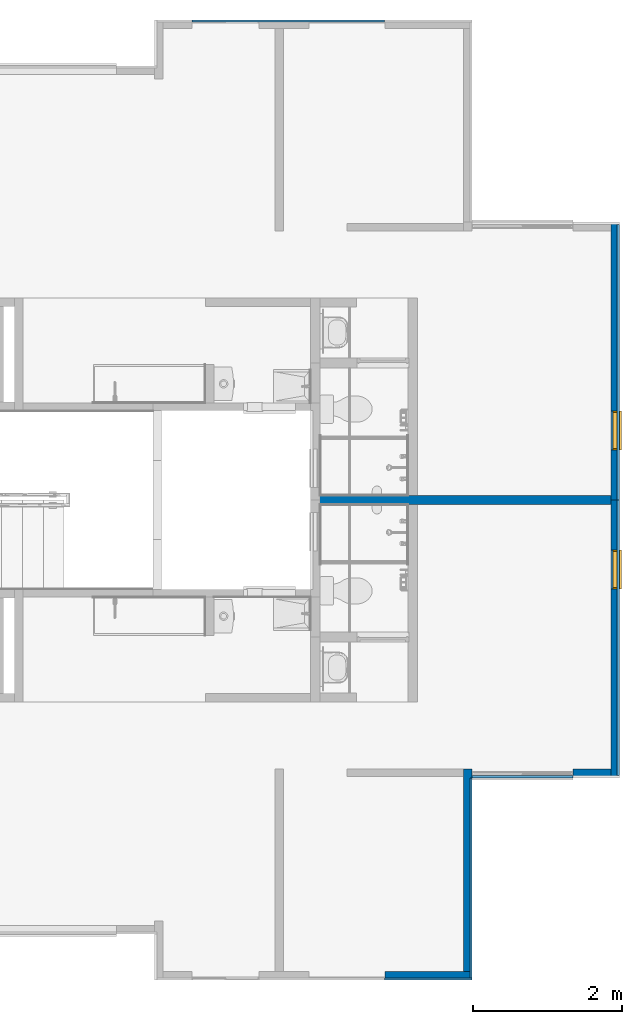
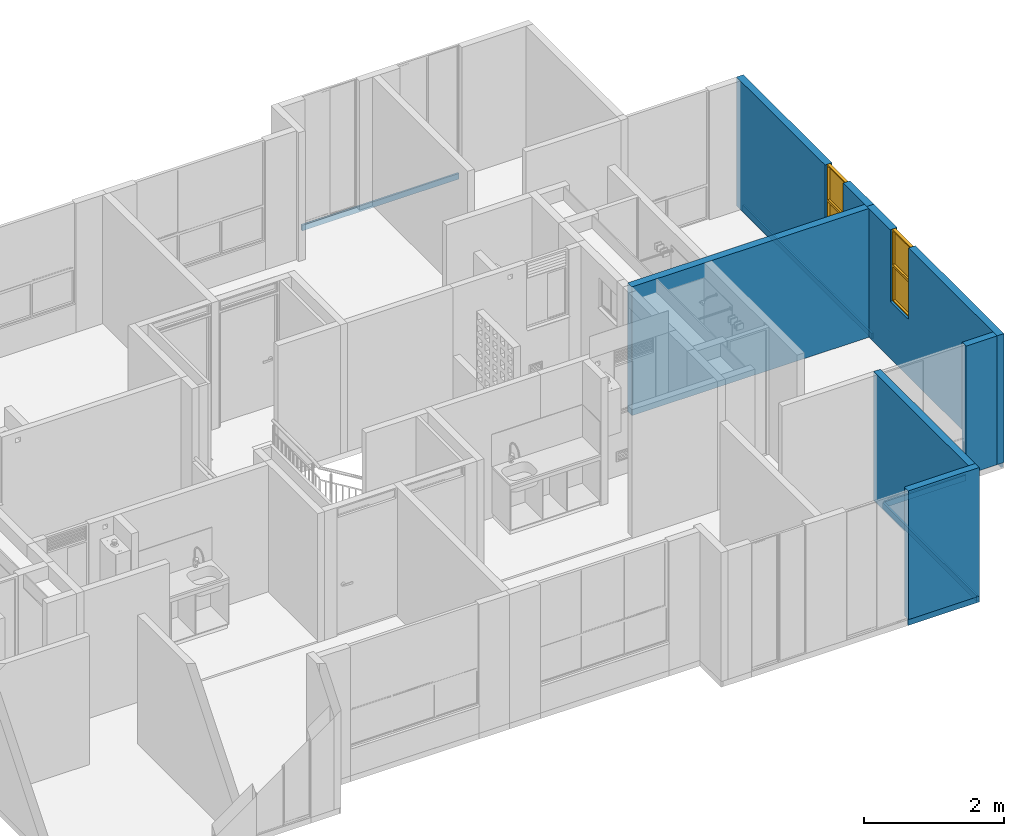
# One storey, part 26 of 47: 12 walls, 2 windows, 2 openings.
"""IFC4 building model written with IfcOpenShell, lengths in metres."""

import ifcopenshell
import ifcopenshell.guid

model = None  # the IFC model being written
_history = None  # IfcOwnerHistory: only IFC2X3 demands one
_inside = {}  # id of a spatial element -> (the spatial element, [elements in it])
_under = {}  # id of a project, library or spatial element -> (it, [spatial elements below it])
_declared = {}  # id of a project -> (the project, [libraries it declares])
_typed = {}  # id of a type object -> (the type object, [elements of that type])
_made_of = {}  # id of a material, layer set ... -> (it, [elements and type objects made of it])


def new_model(schema):
    """Start an empty IFC model of exactly this schema.

    Asked for "IFC4X3", IfcOpenShell would pick the latest addendum, in which some entities
    have other attributes; the version numbers below select the first issue.
    IFC2X3 requires an IfcOwnerHistory on every rooted entity: one is made here for all.
    """
    global model, _history
    if schema == "IFC4X3":
        model = ifcopenshell.file(schema_version=(4, 3, 0, 0))
    else:
        model = ifcopenshell.file(schema=schema)
    _inside.clear()
    _under.clear()
    _declared.clear()
    _typed.clear()
    _made_of.clear()
    _history = None
    if model.schema == "IFC2X3":
        org = make("IfcOrganization", Name="unknown")
        user = make(
            "IfcPersonAndOrganization",
            ThePerson=make("IfcPerson", FamilyName="unknown"),
            TheOrganization=org,
        )
        app = make(
            "IfcApplication",
            ApplicationDeveloper=org,
            Version="unknown",
            ApplicationFullName="unknown",
            ApplicationIdentifier="unknown",
        )
        _history = make(
            "IfcOwnerHistory",
            OwningUser=user,
            OwningApplication=app,
            ChangeAction="ADDED",
            CreationDate=0,
        )
    return model


def make(cls, **values):
    """One entity of the class cls with the attributes given. An attribute that is None is left unset."""
    return model.create_entity(
        cls, **{name: value for name, value in values.items() if value is not None}
    )


def entity(cls, *values):
    """Any entity or typed value of the class cls, its attributes in the order of the schema. None: left unset."""
    e = model.create_entity(cls)
    for i, value in enumerate(values):
        if value is not None:
            e[i] = value
    return e


def rooted(cls, **values):
    """An entity with a GlobalId (a new one), such as an element, a storey or a relation."""
    return make(cls, GlobalId=ifcopenshell.guid.new(), OwnerHistory=_history, **values)


def si_unit(unit_type, name, prefix=None):
    """IfcSIUnit, for example si_unit("LENGTHUNIT", "METRE", prefix="MILLI")."""
    return make("IfcSIUnit", UnitType=unit_type, Prefix=prefix, Name=name)


def converted_unit(unit_type, name, factor, base, dimensions=None, offset=None):
    """IfcConversionBasedUnit, such as the inch: factor (a typed value) times the base unit."""
    return make(
        "IfcConversionBasedUnit"
        if offset is None
        else "IfcConversionBasedUnitWithOffset",
        ConversionOffset=offset,
        Dimensions=None
        if dimensions is None
        else entity("IfcDimensionalExponents", *dimensions),
        UnitType=unit_type,
        Name=name,
        ConversionFactor=make(
            "IfcMeasureWithUnit", ValueComponent=factor, UnitComponent=base
        ),
    )


def derived_unit(unit_type, elements):
    """IfcDerivedUnit: a product of units, each with its exponent."""
    return make(
        "IfcDerivedUnit",
        Elements=[
            make("IfcDerivedUnitElement", Unit=unit, Exponent=power)
            for unit, power in elements
        ],
        UnitType=unit_type,
    )


def assignment(units):
    """IfcUnitAssignment: the units of a project."""
    return None if units is None else make("IfcUnitAssignment", Units=units)


def point(xyz):
    """IfcCartesianPoint."""
    return None if xyz is None else make("IfcCartesianPoint", Coordinates=xyz)


def direction(xyz):
    """IfcDirection."""
    return None if xyz is None else make("IfcDirection", DirectionRatios=xyz)


def frame(location, z_axis=None, x_axis=None):
    """IfcAxis2Placement3D, a coordinate frame: its origin and axes. An axis left out is left unset."""
    return make(
        "IfcAxis2Placement3D",
        Location=point(location),
        Axis=direction(z_axis),
        RefDirection=direction(x_axis),
    )


def origin():
    """The frame at (0, 0, 0) with its axes left unset."""
    return frame((0.0, 0.0, 0.0))


def place(relative_to, where):
    """IfcLocalPlacement: puts the frame where relative to a parent placement (None: the world)."""
    return make(
        "IfcLocalPlacement", PlacementRelTo=relative_to, RelativePlacement=where
    )


def context(
    kind, dimensions, precision=None, world=None, true_north=None, identifier=None
):
    """IfcGeometricRepresentationContext, for example the 3D "Model" context."""
    return make(
        "IfcGeometricRepresentationContext",
        ContextIdentifier=identifier,
        ContextType=kind,
        CoordinateSpaceDimension=dimensions,
        Precision=precision,
        WorldCoordinateSystem=world,
        TrueNorth=true_north,
    )


def subcontext(parent, identifier, kind, view, scale=None):
    """IfcGeometricRepresentationSubContext, for example "Body" below "Model"."""
    return make(
        "IfcGeometricRepresentationSubContext",
        ContextIdentifier=identifier,
        ContextType=kind,
        ParentContext=parent,
        TargetScale=scale,
        TargetView=view,
    )


def project(units=None, contexts=None):
    """IfcProject with its units and contexts."""
    return rooted(
        "IfcProject",
        Name="project",
        RepresentationContexts=contexts,
        UnitsInContext=assignment(units),
    )


def spatial(cls, under=None, at=None, **own):
    """A site, building, storey or space (cls), placed at a placement, below another one or the project."""
    s = rooted(cls, ObjectPlacement=at, **own)
    if under is not None:
        _under.setdefault(under.id(), (under, []))[1].append(s)
    return s


def point_list(points):
    """IfcCartesianPointList2D or 3D."""
    cls = (
        "IfcCartesianPointList2D" if len(points[0]) == 2 else "IfcCartesianPointList3D"
    )
    return make(cls, CoordList=points)


def indexed_curve(points, segments=None, self_intersect=None):
    """IfcIndexedPolyCurve: lines and arcs through numbered points (the first is 1)."""
    return make(
        "IfcIndexedPolyCurve",
        Points=point_list(points),
        Segments=segments,
        SelfIntersect=self_intersect,
    )


def outline(outer, holes=None, kind="AREA"):
    """IfcArbitraryClosedProfileDef: a profile drawn as a closed curve; with holes, ...WithVoids."""
    if holes is None:
        return make("IfcArbitraryClosedProfileDef", ProfileType=kind, OuterCurve=outer)
    return make(
        "IfcArbitraryProfileDefWithVoids",
        ProfileType=kind,
        OuterCurve=outer,
        InnerCurves=holes,
    )


def extrude(swept, where, along, depth):
    """IfcExtrudedAreaSolid: the profile swept, set in the frame where, extruded along a direction by depth."""
    return make(
        "IfcExtrudedAreaSolid",
        SweptArea=swept,
        Position=where,
        ExtrudedDirection=direction(along),
        Depth=depth,
    )


def polygons(points, faces, closed=None, point_numbers=None):
    """IfcPolygonalFaceSet: a face is its outer loop, then its inner loops; points numbered from 1."""
    made = []
    for loops in faces:
        if len(loops) == 1:
            made.append(make("IfcIndexedPolygonalFace", CoordIndex=loops[0]))
        else:
            made.append(
                make(
                    "IfcIndexedPolygonalFaceWithVoids",
                    CoordIndex=loops[0],
                    InnerCoordIndices=loops[1:],
                )
            )
    return make(
        "IfcPolygonalFaceSet",
        Coordinates=point_list(points),
        Closed=closed,
        Faces=made,
        PnIndex=point_numbers,
    )


def shape(context_of_items, identifier, shape_type, items):
    """IfcShapeRepresentation: the items that make up one representation, for example the "Body"."""
    return make(
        "IfcShapeRepresentation",
        ContextOfItems=context_of_items,
        RepresentationIdentifier=identifier,
        RepresentationType=shape_type,
        Items=items,
    )


def source(mapping_origin, context_of_items, identifier, shape_type, items):
    """IfcRepresentationMap: a shape defined once, which mapped items show again and again."""
    return make(
        "IfcRepresentationMap",
        MappingOrigin=mapping_origin,
        MappedRepresentation=shape(context_of_items, identifier, shape_type, items),
    )


def transform(
    local_origin,
    x_axis=None,
    y_axis=None,
    z_axis=None,
    scale=None,
    scale2=None,
    scale3=None,
    uniform=True,
):
    """IfcCartesianTransformationOperator3D, or its non-uniform kind. x_axis, y_axis, z_axis: its Axis1, 2, 3."""
    if uniform:
        return make(
            "IfcCartesianTransformationOperator3D",
            Axis1=direction(x_axis),
            Axis2=direction(y_axis),
            LocalOrigin=point(local_origin),
            Scale=scale,
            Axis3=direction(z_axis),
        )
    return make(
        "IfcCartesianTransformationOperator3DnonUniform",
        Axis1=direction(x_axis),
        Axis2=direction(y_axis),
        LocalOrigin=point(local_origin),
        Scale=scale,
        Axis3=direction(z_axis),
        Scale2=scale2,
        Scale3=scale3,
    )


def mapped(mapping_source, mapping_target):
    """IfcMappedItem: shows the shape of a source again, moved by a transform."""
    return make(
        "IfcMappedItem", MappingSource=mapping_source, MappingTarget=mapping_target
    )


def material(Name=None, Category=None):
    """IfcMaterial."""
    return make("IfcMaterial", Name=Name, Category=Category)


def constituent(of_material, Name=None, Category=None, fraction=None):
    """IfcMaterialConstituent: one of the materials an element consists of."""
    return make(
        "IfcMaterialConstituent",
        Name=Name,
        Material=of_material,
        Fraction=fraction,
        Category=Category,
    )


def constituent_set(constituents=None, Name=None):
    """IfcMaterialConstituentSet."""
    return make(
        "IfcMaterialConstituentSet", Name=Name, MaterialConstituents=constituents
    )


def made_of(thing, what):
    """Note that an element or type object is made of a material, layer set ...; save() writes the relation."""
    if what is not None:
        _made_of.setdefault(what.id(), (what, []))[1].append(thing)
    return thing


def type_object(cls, material=None, **own):
    """A type object (cls), such as IfcWallType, which elements share."""
    return made_of(rooted(cls, **own), material)


def type_shapes(of_type, sources):
    """Give a type object the sources (RepresentationMaps) that its elements show as mapped items."""
    of_type.RepresentationMaps = sources


def element(
    cls,
    number,
    at=None,
    inside=None,
    cuts=None,
    type_object=None,
    material=None,
    context=None,
    identifier="Body",
    shape_type=None,
    held_by="IfcProductDefinitionShape",
    body=None,
    shapes=None,
    **own,
):
    """One element of the class cls, such as IfcWall. Its Tag is "e" and its number.

    at: its placement. inside: the storey or other place that contains it. cuts: it is an
    opening in that element (IfcRelVoidsElement). A single representation is given by context,
    identifier, shape_type and body (its items); several are given by shapes. held_by: the class
    of the entity that holds the representations. save() writes the other relations.
    """
    e = rooted(cls, Tag="e%d" % number, ObjectPlacement=at, **own)
    if body is not None:
        shapes = [shape(context, identifier, shape_type, body)]
    if shapes is not None:
        e.Representation = make(held_by, Representations=shapes)
    if inside is not None:
        _inside.setdefault(inside.id(), (inside, []))[1].append(e)
    if cuts is not None:
        rooted(
            "IfcRelVoidsElement", RelatingBuildingElement=cuts, RelatedOpeningElement=e
        )
    if type_object is not None:
        _typed.setdefault(type_object.id(), (type_object, []))[1].append(e)
    return made_of(e, material)


def fill(opening, filler):
    """IfcRelFillsElement: the door or window that sits in an opening."""
    return rooted(
        "IfcRelFillsElement",
        RelatingOpeningElement=opening,
        RelatedBuildingElement=filler,
    )


def aggregate(whole, parts):
    """IfcRelAggregates: a whole, such as a stair, and the parts it consists of."""
    return rooted("IfcRelAggregates", RelatingObject=whole, RelatedObjects=parts)


def save(model, path):
    """Write the relations noted so far, then the file.

    IfcRelAggregates (storeys below a building ...), IfcRelContainedInSpatialStructure (elements
    in a storey), IfcRelDefinesByType, IfcRelAssociatesMaterial and IfcRelDeclares: one each for
    every whole, place, type object, material and project.
    """
    for whole, parts in _under.values():
        aggregate(whole, parts)
    for where, things in _inside.values():
        rooted(
            "IfcRelContainedInSpatialStructure",
            RelatedElements=things,
            RelatingStructure=where,
        )
    for kind, things in _typed.values():
        rooted("IfcRelDefinesByType", RelatedObjects=things, RelatingType=kind)
    for what, things in _made_of.values():
        rooted("IfcRelAssociatesMaterial", RelatedObjects=things, RelatingMaterial=what)
    for by, libraries in _declared.values():
        rooted("IfcRelDeclares", RelatingContext=by, RelatedDefinitions=libraries)
    model.write(path)


model = new_model("IFC4")

# Units and contexts
model_context = context("Model", 3, precision=1e-05, world=origin(), true_north=direction((6.123031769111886e-17, 1.0)))
body_context = subcontext(model_context, "Body", "Model", "MODEL_VIEW")
ifc_project = project(units=[si_unit("LENGTHUNIT", "METRE"), si_unit("AREAUNIT", "SQUARE_METRE"), si_unit("VOLUMEUNIT", "CUBIC_METRE"), converted_unit("PLANEANGLEUNIT", "DEGREE", entity("IfcRatioMeasure", 0.017453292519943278), si_unit("PLANEANGLEUNIT", "RADIAN"), dimensions=[0, 0, 0, 0, 0, 0, 0]), si_unit("MASSUNIT", "GRAM", prefix="KILO"), derived_unit("MASSDENSITYUNIT", [(si_unit("MASSUNIT", "GRAM", prefix="KILO"), 1), (si_unit("LENGTHUNIT", "METRE"), -3)]), derived_unit("IONCONCENTRATIONUNIT", [(si_unit("MASSUNIT", "GRAM", prefix="KILO"), 1), (si_unit("LENGTHUNIT", "METRE"), -3)]), derived_unit("MOMENTOFINERTIAUNIT", [(si_unit("LENGTHUNIT", "METRE"), 4)]), si_unit("TIMEUNIT", "SECOND"), si_unit("FREQUENCYUNIT", "HERTZ"), si_unit("THERMODYNAMICTEMPERATUREUNIT", "DEGREE_CELSIUS"), derived_unit("THERMALTRANSMITTANCEUNIT", [(si_unit("MASSUNIT", "GRAM", prefix="KILO"), 1), (si_unit("THERMODYNAMICTEMPERATUREUNIT", "KELVIN"), -1), (si_unit("TIMEUNIT", "SECOND"), -3)]), derived_unit("THERMALCONDUCTANCEUNIT", [(si_unit("MASSUNIT", "GRAM", prefix="KILO"), 1), (si_unit("THERMODYNAMICTEMPERATUREUNIT", "KELVIN"), -1), (si_unit("TIMEUNIT", "SECOND"), -3), (si_unit("LENGTHUNIT", "METRE"), 1)]), derived_unit("VOLUMETRICFLOWRATEUNIT", [(si_unit("LENGTHUNIT", "METRE"), 3), (si_unit("TIMEUNIT", "SECOND"), -1)]), derived_unit("MASSFLOWRATEUNIT", [(si_unit("MASSUNIT", "GRAM", prefix="KILO"), 1), (si_unit("TIMEUNIT", "SECOND"), -1)]), derived_unit("ROTATIONALFREQUENCYUNIT", [(si_unit("TIMEUNIT", "SECOND"), -1)]), si_unit("ELECTRICCURRENTUNIT", "AMPERE"), si_unit("ELECTRICVOLTAGEUNIT", "VOLT"), si_unit("POWERUNIT", "WATT"), si_unit("FORCEUNIT", "NEWTON", prefix="KILO"), si_unit("ILLUMINANCEUNIT", "LUX"), si_unit("LUMINOUSFLUXUNIT", "LUMEN"), si_unit("LUMINOUSINTENSITYUNIT", "CANDELA"), derived_unit("USERDEFINED", [(si_unit("MASSUNIT", "GRAM", prefix="KILO"), -1), (si_unit("LENGTHUNIT", "METRE"), -2), (si_unit("TIMEUNIT", "SECOND"), 3), (si_unit("LUMINOUSFLUXUNIT", "LUMEN"), 1)]), derived_unit("USERDEFINED", [(si_unit("MASSUNIT", "GRAM", prefix="KILO"), 1), (si_unit("TIMEUNIT", "SECOND"), -3), (si_unit("LENGTHUNIT", "METRE"), 3), (si_unit("ELECTRICCURRENTUNIT", "AMPERE"), -2)]), derived_unit("SOUNDPOWERUNIT", [(si_unit("MASSUNIT", "GRAM", prefix="KILO"), 1), (si_unit("TIMEUNIT", "SECOND"), -3), (si_unit("LENGTHUNIT", "METRE"), 2)]), derived_unit("SOUNDPRESSUREUNIT", [(si_unit("MASSUNIT", "GRAM", prefix="KILO"), 1), (si_unit("LENGTHUNIT", "METRE"), -1), (si_unit("TIMEUNIT", "SECOND"), -2)]), derived_unit("LINEARVELOCITYUNIT", [(si_unit("LENGTHUNIT", "METRE"), 1), (si_unit("TIMEUNIT", "SECOND"), -1)]), si_unit("PRESSUREUNIT", "PASCAL"), derived_unit("USERDEFINED", [(si_unit("MASSUNIT", "GRAM", prefix="KILO"), 1), (si_unit("LENGTHUNIT", "METRE"), -2), (si_unit("TIMEUNIT", "SECOND"), -2)]), derived_unit("LINEARFORCEUNIT", [(si_unit("MASSUNIT", "GRAM", prefix="KILO"), 1), (si_unit("TIMEUNIT", "SECOND"), -2)]), derived_unit("PLANARFORCEUNIT", [(si_unit("MASSUNIT", "GRAM", prefix="KILO"), 1), (si_unit("LENGTHUNIT", "METRE"), -1), (si_unit("TIMEUNIT", "SECOND"), -2)]), derived_unit("SPECIFICHEATCAPACITYUNIT", [(si_unit("THERMODYNAMICTEMPERATUREUNIT", "KELVIN"), -1), (si_unit("LENGTHUNIT", "METRE"), 2), (si_unit("TIMEUNIT", "SECOND"), -2)]), derived_unit("HEATINGVALUEUNIT", [(si_unit("LENGTHUNIT", "METRE"), 2), (si_unit("TIMEUNIT", "SECOND"), -2)]), derived_unit("VAPORPERMEABILITYUNIT", [(si_unit("LENGTHUNIT", "METRE"), -1), (si_unit("TIMEUNIT", "SECOND"), 1)]), derived_unit("DYNAMICVISCOSITYUNIT", [(si_unit("MASSUNIT", "GRAM", prefix="KILO"), 1), (si_unit("TIMEUNIT", "SECOND"), -1), (si_unit("LENGTHUNIT", "METRE"), -1)]), derived_unit("THERMALEXPANSIONCOEFFICIENTUNIT", [(si_unit("THERMODYNAMICTEMPERATUREUNIT", "KELVIN"), -1)]), derived_unit("MODULUSOFELASTICITYUNIT", [(si_unit("MASSUNIT", "GRAM", prefix="KILO"), 1), (si_unit("LENGTHUNIT", "METRE"), -1), (si_unit("TIMEUNIT", "SECOND"), -2)]), derived_unit("ISOTHERMALMOISTURECAPACITYUNIT", [(si_unit("LENGTHUNIT", "METRE"), 3), (si_unit("MASSUNIT", "GRAM", prefix="KILO"), -1)]), derived_unit("MOISTUREDIFFUSIVITYUNIT", [(si_unit("TIMEUNIT", "SECOND"), -1), (si_unit("LENGTHUNIT", "METRE"), 2)])], contexts=[model_context])

# Site, building, storey
site_placement = place(None, origin())
site = spatial("IfcSite", under=ifc_project, at=site_placement, Name="Default", CompositionType="ELEMENT")
building_placement = place(site_placement, origin())
building = spatial("IfcBuilding", under=site, at=building_placement, CompositionType="ELEMENT")
storey_placement = place(building_placement, frame((0.0, 0.0, 11.750000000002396)))
storey = spatial("IfcBuildingStorey", under=building, at=storey_placement, Name="Nivel 6", CompositionType="ELEMENT", Elevation=11.750000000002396)

# Wall
ifc_material_1 = material(Name="Concreto (Aire)", Category="Materials")
wall_type_1 = type_object("IfcWallType", Name="Basic Wall:B2010 - 0.12m - Muro interior en concreto", PredefinedType="STANDARD")
wall_1_placement = place(storey_placement, frame((18.587500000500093, -6.425000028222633, 0.0), z_axis=(0.0, 0.0, 1.0), x_axis=(-1.0, 0.0, 0.0)))
element("IfcWall", 1, at=wall_1_placement, inside=storey, type_object=wall_type_1, material=ifc_material_1, Name="Basic Wall:B2010 - 0.12m - Muro interior en concreto", ObjectType="Basic Wall:B2010 - 0.12m - Muro interior en concreto", PredefinedType="NOTDEFINED", context=body_context, shape_type="SweptSolid", body=[
    extrude(outline(indexed_curve([(3.914999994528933, 0.06000000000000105), (1.8965521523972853e-16, 0.060000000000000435), (-1.8965521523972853e-16, -0.060000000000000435), (3.914999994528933, -0.05999999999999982), (3.914999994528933, 0.06000000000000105)], self_intersect=False)), origin(), (0.0, 0.0, 1.0), 2.2500000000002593),
])

# Wall, opening, window
ifc_material_2 = material(Name="Ladrillo claro (Aire)", Category="Materials")
wall_type_2 = type_object("IfcWallType", Name="Basic Wall:B2010 - 0.115m - Muro exterior en mampostería - Ladrillo", PredefinedType="STANDARD")
wall_2_placement = place(storey_placement, frame((18.64500000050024, -2.695000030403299, 0.0), z_axis=(0.0, 0.0, 1.0), x_axis=(0.0, -1.0, 0.0)))
wall_2 = element("IfcWall", 2, at=wall_2_placement, inside=storey, type_object=wall_type_2, material=ifc_material_2, Name="Basic Wall:B2010 - 0.115m - Muro exterior en mampostería - Ladrillo", ObjectType="Basic Wall:B2010 - 0.115m - Muro exterior en mampostería - Ladrillo", PredefinedType="NOTDEFINED", context=body_context, shape_type="Tessellation", body=[
    polygons([(3.729999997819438, -0.05750000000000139, 2.2500000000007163), (3.056249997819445, -0.05749999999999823, 2.2500000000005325), (3.056249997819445, -0.05749999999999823, 1.000000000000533), (2.536249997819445, -0.057500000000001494, 1.000000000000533), (2.536249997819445, -0.057500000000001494, 2.250000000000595), (5.414335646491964e-16, -0.05749999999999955, 2.2500000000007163), (5.414335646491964e-16, -0.05749999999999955, -2.1657342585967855e-15), (3.729999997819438, -0.05750000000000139, -2.1657342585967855e-15), (3.0562499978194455, 0.05750000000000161, 1.000000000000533), (3.0562499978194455, 0.05750000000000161, 2.2500000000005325), (3.7299999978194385, 0.05750000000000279, 2.2500000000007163), (3.7299999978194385, 0.05750000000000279, -2.1657342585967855e-15), (5.414335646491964e-16, 0.057500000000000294, -2.1657342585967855e-15), (5.414335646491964e-16, 0.057500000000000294, 2.2500000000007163), (2.5362499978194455, 0.05750000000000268, 2.250000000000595), (2.5362499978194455, 0.05750000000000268, 1.000000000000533)], [[[1, 2, 3, 4, 5, 6, 7, 8]], [[9, 10, 11, 12, 13, 14, 15, 16]], [[8, 7, 13, 12]], [[1, 8, 12, 11]], [[11, 10, 2, 1]], [[7, 6, 14, 13]], [[5, 4, 16, 15]], [[3, 2, 10, 9]], [[4, 3, 9, 16]], [[15, 14, 6, 5]]], closed=True),
])
opening_1_placement = place(wall_2_placement, frame((2.5362499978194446, -0.057500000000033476, 1.0)))
opening_1 = element("IfcOpeningElement", 3, at=opening_1_placement, cuts=wall_2, Name="B2020 - Ventana batiente - Aluminio + Vidrio:B2020 -0.52m x 1.1.25m - Ventana batiente 2C - Aluminio + Vidrio:1", PredefinedType="OPENING", context=body_context, shape_type="SweptSolid", body=[
    extrude(outline(indexed_curve([(0.0, -1.3535839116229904e-16), (1.2499999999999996, -1.3535839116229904e-16), (1.2499999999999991, 0.5199999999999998), (0.0, 0.5199999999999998), (0.0, -1.3535839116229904e-16)], self_intersect=False)), frame((0.0, 0.0, 0.0), z_axis=(0.0, 1.0, 0.0), x_axis=(0.0, 0.0, 1.0)), (0.0, 0.0, 1.0), 0.115),
])
ifc_material_3 = material(Name="Vidrio", Category="Materials")
ifc_constituent_1 = constituent(ifc_material_3, Name="Vidrio", Category="Materials")
ifc_material_4 = material(Name="Aluminio", Category="Materials")
ifc_constituent_2 = constituent(ifc_material_4, Name="Aluminio", Category="Materials")
ifc_material_5 = material(Name="<Unnamed>")
ifc_constituent_3 = constituent(ifc_material_5, Name="<Unnamed>")
ifc_constituent_set_1 = constituent_set(constituents=[ifc_constituent_1, ifc_constituent_2, ifc_constituent_3])
ifc_constituent_4 = constituent(ifc_material_3, Name="Vidrio", Category="Materials")
ifc_constituent_5 = constituent(ifc_material_4, Name="Aluminio", Category="Materials")
ifc_constituent_6 = constituent(ifc_material_5, Name="<Unnamed>")
ifc_constituent_set_2 = constituent_set(constituents=[ifc_constituent_4, ifc_constituent_5, ifc_constituent_6])
window_type_1 = type_object("IfcWindowType", Name="B2020 - Ventana batiente - Aluminio + Vidrio:B2020 -0.52m x 1.1.25m - Ventana batiente 2C - Aluminio + Vidrio", PartitioningType="NOTDEFINED", PredefinedType="WINDOW", material=ifc_constituent_set_2)
shared_shape_1 = source(origin(), body_context, "Body", "SweptSolid", [
    extrude(outline(indexed_curve([(-0.0020000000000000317, -0.2400000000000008), (0.0019999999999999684, -0.2400000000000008), (0.0020000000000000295, 0.2400000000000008), (-0.0019999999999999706, 0.2400000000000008), (-0.0020000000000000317, -0.2400000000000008)], self_intersect=False)), frame((0.26000000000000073, 0.07013901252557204, 0.01999999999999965), z_axis=(0.0, 0.0, 1.0), x_axis=(0.0, -1.0, 0.0)), (0.0, 0.0, 1.0), 0.585),
    extrude(outline(indexed_curve([(-0.3124999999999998, -0.2599999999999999), (0.3124999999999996, -0.2599999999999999), (0.3124999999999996, 0.2599999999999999), (-0.3124999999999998, 0.2599999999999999), (-0.3124999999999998, -0.2599999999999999)], self_intersect=False), holes=[indexed_curve([(0.2924999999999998, -0.24000000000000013), (-0.2925, -0.24000000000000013), (-0.2925, 0.24000000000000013), (0.2924999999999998, 0.24000000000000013), (0.2924999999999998, -0.24000000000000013)], self_intersect=False)]), frame((0.26000000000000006, 0.032499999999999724, 0.3124999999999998), z_axis=(0.0, 1.0, 0.0), x_axis=(0.0, 0.0, 1.0)), (0.0, 0.0, 1.0), 0.05),
    extrude(outline(indexed_curve([(-0.0020000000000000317, -0.2400000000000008), (0.0019999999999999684, -0.2400000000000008), (0.0020000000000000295, 0.2400000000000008), (-0.0019999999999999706, 0.2400000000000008), (-0.0020000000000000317, -0.2400000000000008)], self_intersect=False)), frame((0.25999999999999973, 0.07013901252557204, 0.6449999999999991), z_axis=(0.0, 0.0, 1.0), x_axis=(0.0, -1.0, 0.0)), (0.0, 0.0, 1.0), 0.585),
    extrude(outline(indexed_curve([(-0.3124999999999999, -0.2599999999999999), (0.3124999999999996, -0.2599999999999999), (0.3124999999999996, 0.25999999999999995), (-0.3124999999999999, 0.2599999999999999), (-0.3124999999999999, -0.2599999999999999)], self_intersect=False), holes=[indexed_curve([(0.2924999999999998, -0.24000000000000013), (-0.2925000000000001, -0.24000000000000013), (-0.2925000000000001, 0.24000000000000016), (0.2924999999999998, 0.24000000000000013), (0.2924999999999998, -0.24000000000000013)], self_intersect=False)]), frame((0.259999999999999, 0.032499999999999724, 0.9374999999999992), z_axis=(0.0, 1.0, 0.0), x_axis=(0.0, 0.0, 1.0)), (0.0, 0.0, 1.0), 0.05),
    extrude(outline(indexed_curve([(2.1899534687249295e-05, 0.0030283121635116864), (0.03002189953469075, 0.0030283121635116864), (0.030021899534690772, 0.008028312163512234), (-0.0013178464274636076, 0.00802831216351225), (-0.030623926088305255, -0.008891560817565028), (-0.02812392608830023, -0.013221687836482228), (2.1899534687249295e-05, 0.0030283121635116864)], self_intersect=False)), frame((0.0, 0.11346687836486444, -0.002611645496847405), z_axis=(1.0, 0.0, 0.0), x_axis=(0.0, 0.8660254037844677, -0.4999999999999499)), (0.0, 0.0, 1.0), 0.520000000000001),
])
type_shapes(window_type_1, [shared_shape_1])
window_1_placement = place(opening_1_placement, origin())
window_1 = element("IfcWindow", 4, at=window_1_placement, inside=storey, type_object=window_type_1, material=ifc_constituent_set_1, Name="B2020 - Ventana batiente - Aluminio + Vidrio:B2020 -0.52m x 1.1.25m - Ventana batiente 2C - Aluminio + Vidrio", ObjectType="B2020 - Ventana batiente - Aluminio + Vidrio:B2020 -0.52m x 1.1.25m - Ventana batiente 2C - Aluminio + Vidrio", OverallHeight=1.2499999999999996, OverallWidth=0.5199999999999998, PartitioningType="NOTDEFINED", PredefinedType="WINDOW", context=body_context, shape_type="MappedRepresentation", body=[
    mapped(shared_shape_1, transform((0.0, 0.0, 0.0), scale=1.0)),
])
fill(opening_1, window_1)

wall_3_placement = place(storey_placement, frame((18.645000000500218, -10.15500002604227, 0.0), z_axis=(0.0, 0.0, 1.0), x_axis=(0.0, 1.0, 0.0)))
wall_3 = element("IfcWall", 5, at=wall_3_placement, inside=storey, type_object=wall_type_2, material=ifc_material_2, Name="Basic Wall:B2010 - 0.115m - Muro exterior en mampostería - Ladrillo", ObjectType="Basic Wall:B2010 - 0.115m - Muro exterior en mampostería - Ladrillo", PredefinedType="NOTDEFINED", context=body_context, shape_type="Tessellation", body=[
    polygons([(3.729999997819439, -0.05750000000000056, 2.2500000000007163), (3.05624999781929, -0.05749999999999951, 2.2500000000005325), (3.05624999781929, -0.05749999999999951, 1.000000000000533), (2.5362499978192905, -0.05749999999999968, 1.000000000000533), (2.5362499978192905, -0.05749999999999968, 2.250000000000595), (0.0, -0.057499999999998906, 2.2500000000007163), (0.0, -0.057499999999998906, -2.1657342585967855e-15), (3.729999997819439, -0.05750000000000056, -2.1657342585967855e-15), (3.056249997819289, 0.057500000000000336, 1.000000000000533), (3.056249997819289, 0.057500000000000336, 2.2500000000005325), (3.729999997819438, 0.05750000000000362, 2.2500000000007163), (3.729999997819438, 0.05750000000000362, -2.1657342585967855e-15), (0.0, 0.05750000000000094, -2.1657342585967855e-15), (0.0, 0.05750000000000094, 2.2500000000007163), (2.5362499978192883, 0.05750000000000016, 2.250000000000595), (2.5362499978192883, 0.05750000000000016, 1.000000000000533)], [[[1, 2, 3, 4, 5, 6, 7, 8]], [[9, 10, 11, 12, 13, 14, 15, 16]], [[8, 7, 13, 12]], [[1, 8, 12, 11]], [[11, 10, 2, 1]], [[7, 6, 14, 13]], [[5, 4, 16, 15]], [[3, 2, 10, 9]], [[4, 3, 9, 16]], [[15, 14, 6, 5]]], closed=True),
])
opening_2_placement = place(wall_3_placement, frame((3.056249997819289, 0.05750000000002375, 1.0)))
opening_2 = element("IfcOpeningElement", 6, at=opening_2_placement, cuts=wall_3, Name="B2020 - Ventana batiente - Aluminio + Vidrio:B2020 -0.52m x 1.1.25m - Ventana batiente 2C - Aluminio + Vidrio:1", PredefinedType="OPENING", context=body_context, shape_type="SweptSolid", body=[
    extrude(outline(indexed_curve([(0.0, 0.5199999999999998), (0.0, 0.0), (1.2499999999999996, 0.0), (1.2499999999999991, 0.5199999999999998), (0.0, 0.5199999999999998)], self_intersect=False)), frame((0.0, 0.0, 0.0), z_axis=(0.0, -1.0, 0.0), x_axis=(0.0, 0.0, 1.0)), (0.0, 0.0, 1.0), 0.115),
])
ifc_constituent_7 = constituent(ifc_material_3, Name="Vidrio", Category="Materials")
ifc_constituent_8 = constituent(ifc_material_4, Name="Aluminio", Category="Materials")
ifc_constituent_9 = constituent(ifc_material_5, Name="<Unnamed>")
ifc_constituent_set_3 = constituent_set(constituents=[ifc_constituent_7, ifc_constituent_8, ifc_constituent_9])
ifc_constituent_10 = constituent(ifc_material_3, Name="Vidrio", Category="Materials")
ifc_constituent_11 = constituent(ifc_material_4, Name="Aluminio", Category="Materials")
ifc_constituent_12 = constituent(ifc_material_5, Name="<Unnamed>")
ifc_constituent_set_4 = constituent_set(constituents=[ifc_constituent_10, ifc_constituent_11, ifc_constituent_12])
window_type_2 = type_object("IfcWindowType", Name="B2020 - Ventana batiente - Aluminio + Vidrio:B2020 -0.52m x 1.1.25m - Ventana batiente 2C - Aluminio + Vidrio", PartitioningType="NOTDEFINED", PredefinedType="WINDOW", material=ifc_constituent_set_4)
shared_shape_2 = source(origin(), body_context, "Body", "SweptSolid", [
    extrude(outline(indexed_curve([(-0.2400000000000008, -0.001999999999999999), (0.2400000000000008, -0.001999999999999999), (0.2400000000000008, 0.0020000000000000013), (-0.2400000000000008, 0.0020000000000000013), (-0.2400000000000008, -0.001999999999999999)], self_intersect=False)), frame((0.26000000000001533, 0.07013901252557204, 0.01999999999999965), z_axis=(0.0, 0.0, 1.0), x_axis=(-1.0, 0.0, 0.0)), (0.0, 0.0, 1.0), 0.585),
    extrude(outline(indexed_curve([(-0.2599999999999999, -0.3124999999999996), (0.2599999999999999, -0.3124999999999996), (0.2599999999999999, 0.3124999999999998), (-0.2599999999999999, 0.3124999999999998), (-0.2599999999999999, -0.3124999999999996)], self_intersect=False), holes=[indexed_curve([(-0.24000000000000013, 0.2925), (0.24000000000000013, 0.2925), (0.24000000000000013, -0.2924999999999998), (-0.24000000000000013, -0.2924999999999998), (-0.24000000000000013, 0.2925)], self_intersect=False)]), frame((0.260000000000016, 0.08249999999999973, 0.3124999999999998), z_axis=(0.0, -1.0, 0.0), x_axis=(-1.0, 0.0, 0.0)), (0.0, 0.0, 1.0), 0.05),
    extrude(outline(indexed_curve([(-0.2400000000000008, -0.001999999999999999), (0.2400000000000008, -0.001999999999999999), (0.2400000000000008, 0.0020000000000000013), (-0.2400000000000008, 0.0020000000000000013), (-0.2400000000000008, -0.001999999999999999)], self_intersect=False)), frame((0.2600000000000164, 0.07013901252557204, 0.6449999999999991), z_axis=(0.0, 0.0, 1.0), x_axis=(-1.0, 0.0, 0.0)), (0.0, 0.0, 1.0), 0.585),
    extrude(outline(indexed_curve([(-0.2599999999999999, -0.3124999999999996), (0.2599999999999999, -0.3124999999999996), (0.2599999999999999, 0.3124999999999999), (-0.2599999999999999, 0.3124999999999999), (-0.2599999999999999, -0.3124999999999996)], self_intersect=False), holes=[indexed_curve([(-0.24000000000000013, 0.2925000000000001), (0.24000000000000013, 0.2925000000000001), (0.24000000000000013, -0.2924999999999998), (-0.24000000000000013, -0.2924999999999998), (-0.24000000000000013, 0.2925000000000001)], self_intersect=False)]), frame((0.26000000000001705, 0.08249999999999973, 0.9374999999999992), z_axis=(0.0, -1.0, 0.0), x_axis=(-1.0, 0.0, 0.0)), (0.0, 0.0, 1.0), 0.05),
    extrude(outline(indexed_curve([(-0.0015331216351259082, 0.002611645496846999), (0.030966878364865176, 0.002611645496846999), (0.030966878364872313, 0.007611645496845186), (-0.0028728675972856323, 0.007611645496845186), (-0.030013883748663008, -0.008058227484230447), (-0.027513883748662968, -0.012388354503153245), (-0.0015331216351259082, 0.002611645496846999)], self_intersect=False)), frame((0.5200000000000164, 0.11346687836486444, -0.002611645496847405), z_axis=(-1.0, 0.0, 0.0), x_axis=(0.0, -1.0, 0.0)), (0.0, 0.0, 1.0), 0.5200000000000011),
])
type_shapes(window_type_2, [shared_shape_2])
window_2_placement = place(opening_2_placement, frame((0.0, 0.0, 0.0), z_axis=(0.0, 0.0, 1.0), x_axis=(-1.0, 0.0, 0.0)))
window_2 = element("IfcWindow", 7, at=window_2_placement, inside=storey, type_object=window_type_2, material=ifc_constituent_set_3, Name="B2020 - Ventana batiente - Aluminio + Vidrio:B2020 -0.52m x 1.1.25m - Ventana batiente 2C - Aluminio + Vidrio", ObjectType="B2020 - Ventana batiente - Aluminio + Vidrio:B2020 -0.52m x 1.1.25m - Ventana batiente 2C - Aluminio + Vidrio", OverallHeight=1.2499999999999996, OverallWidth=0.5199999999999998, PartitioningType="NOTDEFINED", PredefinedType="WINDOW", context=body_context, shape_type="MappedRepresentation", body=[
    mapped(shared_shape_2, transform((0.0, 0.0, 0.0), scale=1.0)),
])
fill(opening_2, window_2)

# Walls
wall_4_placement = place(storey_placement, frame((16.670000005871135, -10.040000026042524, 0.0), z_axis=(0.0, 0.0, 1.0), x_axis=(0.0, -1.0, 0.0)))
element("IfcWall", 8, at=wall_4_placement, inside=storey, type_object=wall_type_2, material=ifc_material_2, Name="Basic Wall:B2010 - 0.115m - Muro exterior en mampostería - Ladrillo", ObjectType="Basic Wall:B2010 - 0.115m - Muro exterior en mampostería - Ladrillo", PredefinedType="NOTDEFINED", context=body_context, shape_type="SweptSolid", body=[
    extrude(outline(indexed_curve([(2.7150000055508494, 0.05750000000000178), (-1.0024667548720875e-15, 0.057499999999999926), (1.0024667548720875e-15, -0.057499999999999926), (2.7150000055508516, -0.057499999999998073), (2.7150000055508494, 0.05750000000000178)], self_intersect=False)), origin(), (0.0, 0.0, 1.0), 2.2500000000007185),
])
ifc_material_6 = material(Name="LADRILLO CLARO", Category="Materials")
wall_type_3 = type_object("IfcWallType", Name="Basic Wall:B2010 - 0.115m - ME mampostería no estructural - Ladrillo", PredefinedType="STANDARD")
wall_5_placement = place(storey_placement, frame((18.587500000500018, -10.097500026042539, 0.0), z_axis=(0.0, 0.0, 1.0), x_axis=(-1.0, 0.0, 0.0)))
element("IfcWall", 9, at=wall_5_placement, inside=storey, type_object=wall_type_3, material=ifc_material_6, Name="Basic Wall:B2010 - 0.115m - ME mampostería no estructural - Ladrillo", ObjectType="Basic Wall:B2010 - 0.115m - ME mampostería no estructural - Ladrillo", PredefinedType="NOTDEFINED", context=body_context, shape_type="SweptSolid", body=[
    extrude(outline(indexed_curve([(0.5099999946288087, 0.05749999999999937), (-1.82274758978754e-16, 0.057499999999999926), (1.82274758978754e-16, -0.057499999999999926), (0.5099999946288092, -0.057500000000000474), (0.5099999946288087, 0.05749999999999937)], self_intersect=False)), origin(), (0.0, 0.0, 1.0), 2.250000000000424),
])
wall_6_placement = place(storey_placement, frame((15.553300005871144, -12.812500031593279, 0.0)))
element("IfcWall", 10, at=wall_6_placement, inside=storey, type_object=wall_type_3, material=ifc_material_6, Name="Basic Wall:B2010 - 0.115m - ME mampostería no estructural - Ladrillo", ObjectType="Basic Wall:B2010 - 0.115m - ME mampostería no estructural - Ladrillo", PredefinedType="NOTDEFINED", context=body_context, shape_type="SweptSolid", body=[
    extrude(outline(indexed_curve([(1.1742000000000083, 0.0574999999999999), (3.1925536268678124e-16, 0.057499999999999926), (-3.1925536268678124e-16, -0.057499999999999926), (1.174200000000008, -0.05749999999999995), (1.1742000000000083, 0.0574999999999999)], self_intersect=False)), origin(), (0.0, 0.0, 1.0), 2.2500000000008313),
])
wall_type_4 = type_object("IfcWallType", Name="Basic Wall:B2010 - 0.03m - ME enchape  no estructural - Ladrillo", PredefinedType="STANDARD")
wall_7_placement = place(storey_placement, frame((18.6875000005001, -2.725000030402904, -0.10000000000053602), z_axis=(0.0, 0.0, 1.0), x_axis=(0.0, -1.0, 0.0)))
element("IfcWall", 11, at=wall_7_placement, inside=storey, type_object=wall_type_4, material=ifc_material_6, Name="Basic Wall:B2010 - 0.03m - ME enchape  no estructural - Ladrillo", ObjectType="Basic Wall:B2010 - 0.03m - ME enchape  no estructural - Ladrillo", PredefinedType="NOTDEFINED", context=body_context, shape_type="SweptSolid", body=[
    extrude(outline(indexed_curve([(3.699999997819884, 0.015000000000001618), (-7.306011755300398e-17, 0.015000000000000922), (7.306011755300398e-17, -0.015000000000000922), (3.699999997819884, -0.015000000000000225), (3.699999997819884, 0.015000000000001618)], self_intersect=False)), origin(), (0.0, 0.0, 1.0), 0.09999999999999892),
])
wall_8_placement = place(storey_placement, frame((16.712500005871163, -12.840000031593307, -0.10000000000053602), z_axis=(0.0, 0.0, 1.0), x_axis=(0.0, 1.0, 0.0)))
element("IfcWall", 12, at=wall_8_placement, inside=storey, type_object=wall_type_4, material=ifc_material_6, Name="Basic Wall:B2010 - 0.03m - ME enchape  no estructural - Ladrillo", ObjectType="Basic Wall:B2010 - 0.03m - ME enchape  no estructural - Ladrillo", PredefinedType="NOTDEFINED", context=body_context, shape_type="SweptSolid", body=[
    extrude(outline(indexed_curve([(2.683660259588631, 0.015000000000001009), (-2.4689444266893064e-17, 0.015000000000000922), (2.4689444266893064e-17, -0.015000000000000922), (2.683660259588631, -0.015000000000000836), (2.683660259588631, 0.015000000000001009)], self_intersect=False)), origin(), (0.0, 0.0, 1.0), 0.09999999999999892),
])
wall_9_placement = place(storey_placement, frame((18.687500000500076, -10.125000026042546, -0.10000000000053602), z_axis=(0.0, 0.0, 1.0), x_axis=(0.0, 1.0, 0.0)))
element("IfcWall", 13, at=wall_9_placement, inside=storey, type_object=wall_type_4, material=ifc_material_6, Name="Basic Wall:B2010 - 0.03m - ME enchape  no estructural - Ladrillo", ObjectType="Basic Wall:B2010 - 0.03m - ME enchape  no estructural - Ladrillo", PredefinedType="NOTDEFINED", context=body_context, shape_type="SweptSolid", body=[
    extrude(outline(indexed_curve([(3.699999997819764, 0.015000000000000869), (-2.6129816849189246e-17, 0.015000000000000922), (2.6129816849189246e-17, -0.015000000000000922), (3.699999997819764, -0.015000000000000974), (3.699999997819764, 0.015000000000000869)], self_intersect=False)), origin(), (0.0, 0.0, 1.0), 0.09999999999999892),
])
wall_10_placement = place(storey_placement, frame((12.962500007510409, 0.004999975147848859, -0.10000000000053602)))
element("IfcWall", 14, at=wall_10_placement, inside=storey, type_object=wall_type_4, material=ifc_material_6, Name="Basic Wall:B2010 - 0.03m - ME enchape  no estructural - Ladrillo", ObjectType="Basic Wall:B2010 - 0.03m - ME enchape  no estructural - Ladrillo", PredefinedType="NOTDEFINED", context=body_context, shape_type="SweptSolid", body=[
    extrude(outline(indexed_curve([(2.5899999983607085, 0.014999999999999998), (4.3864338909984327e-17, 0.015), (-4.3864338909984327e-17, -0.015), (2.5899999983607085, -0.015000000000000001), (2.5899999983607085, 0.014999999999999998)], self_intersect=False)), origin(), (0.0, 0.0, 1.0), 0.09999999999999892),
])
wall_11_placement = place(storey_placement, frame((15.552500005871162, -12.855000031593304, -0.10000000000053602)))
element("IfcWall", 15, at=wall_11_placement, inside=storey, type_object=wall_type_4, material=ifc_material_6, Name="Basic Wall:B2010 - 0.03m - ME enchape  no estructural - Ladrillo", ObjectType="Basic Wall:B2010 - 0.03m - ME enchape  no estructural - Ladrillo", PredefinedType="NOTDEFINED", context=body_context, shape_type="SweptSolid", body=[
    extrude(outline(indexed_curve([(1.1749999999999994, 0.015000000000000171), (-4.570130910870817e-17, 0.015000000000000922), (4.570130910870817e-17, -0.015000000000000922), (1.1749999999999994, -0.015000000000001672), (1.1749999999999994, 0.015000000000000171)], self_intersect=False)), origin(), (0.0, 0.0, 1.0), 0.09999999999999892),
])
wall_12_placement = place(storey_placement, frame((18.077500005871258, -10.140000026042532, -0.10000000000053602), z_axis=(0.0, 0.0, 1.0), x_axis=(-1.0, 0.0, 0.0)))
element("IfcWall", 16, at=wall_12_placement, inside=storey, type_object=wall_type_4, material=ifc_material_6, Name="Basic Wall:B2010 - 0.03m - ME enchape  no estructural - Ladrillo", ObjectType="Basic Wall:B2010 - 0.03m - ME enchape  no estructural - Ladrillo", PredefinedType="NOTDEFINED", context=body_context, shape_type="SweptSolid", body=[
    extrude(outline(indexed_curve([(1.3500000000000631, 0.015000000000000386), (-3.068945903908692e-16, 0.015000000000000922), (3.068945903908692e-16, -0.015000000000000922), (1.3500000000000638, -0.015000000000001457), (1.3500000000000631, 0.015000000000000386)], self_intersect=False)), origin(), (0.0, 0.0, 1.0), 0.09999999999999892),
])

save(model, "model.ifc")
